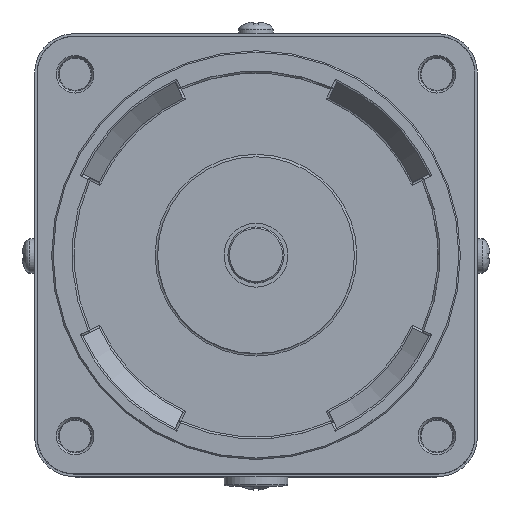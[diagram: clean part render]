
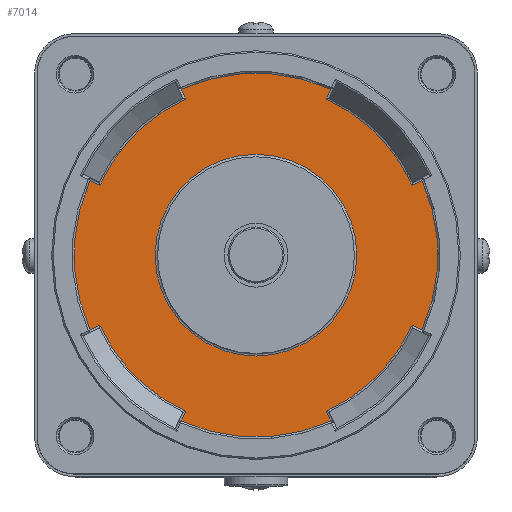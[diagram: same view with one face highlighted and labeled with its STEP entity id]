
A CAD part, top view. The second image highlights one B-rep face of the part: STEP entity #7014.
In plain terms, the highlighted planar face has unit normal (0, 0, 1).
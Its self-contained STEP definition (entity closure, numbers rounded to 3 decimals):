
#82 = CARTESIAN_POINT ( 'NONE',  ( -31.725, 14.242, -2. ) ) ;
#289 = CIRCLE ( 'NONE', #2017, 36.987 ) ;
#325 = AXIS2_PLACEMENT_3D ( 'NONE', #12234, #5129, #12098 ) ;
#367 = ORIENTED_EDGE ( 'NONE', *, *, #12181, .T. ) ;
#459 = EDGE_CURVE ( 'NONE', #4580, #11369, #8915, .T. ) ;
#765 = CIRCLE ( 'NONE', #325, 36.987 ) ;
#836 = DIRECTION ( 'NONE',  ( -0.423, 0.906, 0. ) ) ;
#866 = CARTESIAN_POINT ( 'NONE',  ( -15.177, -33.73, -2. ) ) ;
#884 = EDGE_LOOP ( 'NONE', ( #2710, #3350, #7605, #10015, #5276, #1548, #11326, #7663, #7212, #5815, #1776, #2326, #7047, #8259, #367, #5202 ) ) ;
#927 = VERTEX_POINT ( 'NONE', #13272 ) ;
#1102 = LINE ( 'NONE', #9570, #10724 ) ;
#1548 = ORIENTED_EDGE ( 'NONE', *, *, #7683, .T. ) ;
#1733 = ORIENTED_EDGE ( 'NONE', *, *, #1812, .T. ) ;
#1776 = ORIENTED_EDGE ( 'NONE', *, *, #12683, .T. ) ;
#1812 = EDGE_CURVE ( 'NONE', #10525, #10525, #5108, .T. ) ;
#2017 = AXIS2_PLACEMENT_3D ( 'NONE', #3175, #11440, #4129 ) ;
#2021 = CARTESIAN_POINT ( 'NONE',  ( 0., 0., -2. ) ) ;
#2065 = DIRECTION ( 'NONE',  ( 0., 0., 1. ) ) ;
#2326 = ORIENTED_EDGE ( 'NONE', *, *, #11047, .T. ) ;
#2350 = DIRECTION ( 'NONE',  ( 0.906, 0.423, 0. ) ) ;
#2394 = DIRECTION ( 'NONE',  ( -0.906, -0.423, 0. ) ) ;
#2538 = VERTEX_POINT ( 'NONE', #11842 ) ;
#2573 = VERTEX_POINT ( 'NONE', #9799 ) ;
#2656 = DIRECTION ( 'NONE',  ( 1., 0., 0. ) ) ;
#2680 = DIRECTION ( 'NONE',  ( 0., 0., 1. ) ) ;
#2710 = ORIENTED_EDGE ( 'NONE', *, *, #3640, .T. ) ;
#2854 = DIRECTION ( 'NONE',  ( 0., 0., 1. ) ) ;
#2869 = LINE ( 'NONE', #5934, #9582 ) ;
#3093 = CARTESIAN_POINT ( 'NONE',  ( 14.242, 31.725, -2. ) ) ;
#3175 = CARTESIAN_POINT ( 'NONE',  ( 0., 0., -2. ) ) ;
#3350 = ORIENTED_EDGE ( 'NONE', *, *, #4724, .T. ) ;
#3492 = EDGE_CURVE ( 'NONE', #10732, #4003, #10563, .T. ) ;
#3578 = CIRCLE ( 'NONE', #13303, 34.775 ) ;
#3640 = EDGE_CURVE ( 'NONE', #11369, #2538, #12183, .T. ) ;
#3680 = CIRCLE ( 'NONE', #4327, 36.987 ) ;
#3681 = CARTESIAN_POINT ( 'NONE',  ( 0., 0., -2. ) ) ;
#3782 = VERTEX_POINT ( 'NONE', #10350 ) ;
#3799 = DIRECTION ( 'NONE',  ( 0.906, -0.423, 0. ) ) ;
#3879 = FACE_OUTER_BOUND ( 'NONE', #884, .T. ) ;
#4003 = VERTEX_POINT ( 'NONE', #10683 ) ;
#4082 = DIRECTION ( 'NONE',  ( 1., 0., 0. ) ) ;
#4129 = DIRECTION ( 'NONE',  ( 1., 0., 0. ) ) ;
#4327 = AXIS2_PLACEMENT_3D ( 'NONE', #6392, #5512, #10520 ) ;
#4580 = VERTEX_POINT ( 'NONE', #13302 ) ;
#4655 = CARTESIAN_POINT ( 'NONE',  ( -14.242, -31.725, -2. ) ) ;
#4676 = VERTEX_POINT ( 'NONE', #11663 ) ;
#4724 = EDGE_CURVE ( 'NONE', #2538, #4676, #3680, .T. ) ;
#4971 = PLANE ( 'NONE',  #9372 ) ;
#5042 = AXIS2_PLACEMENT_3D ( 'NONE', #3681, #11938, #2656 ) ;
#5108 = CIRCLE ( 'NONE', #8119, 20.5 ) ;
#5129 = DIRECTION ( 'NONE',  ( 0., 0., 1. ) ) ;
#5202 = ORIENTED_EDGE ( 'NONE', *, *, #459, .T. ) ;
#5247 = CARTESIAN_POINT ( 'NONE',  ( 31.725, 14.242, -2. ) ) ;
#5276 = ORIENTED_EDGE ( 'NONE', *, *, #11590, .T. ) ;
#5512 = DIRECTION ( 'NONE',  ( 0., 0., 1. ) ) ;
#5541 = CARTESIAN_POINT ( 'NONE',  ( 0., 0., -2. ) ) ;
#5588 = EDGE_LOOP ( 'NONE', ( #1733 ) ) ;
#5677 = CARTESIAN_POINT ( 'NONE',  ( 0., 0., -2. ) ) ;
#5815 = ORIENTED_EDGE ( 'NONE', *, *, #7541, .T. ) ;
#5859 = LINE ( 'NONE', #13031, #10437 ) ;
#5934 = CARTESIAN_POINT ( 'NONE',  ( 14.338, -31.932, -2. ) ) ;
#6056 = CARTESIAN_POINT ( 'NONE',  ( -14.242, 31.725, -2. ) ) ;
#6180 = DIRECTION ( 'NONE',  ( 1., 0., 0. ) ) ;
#6392 = CARTESIAN_POINT ( 'NONE',  ( 0., 0., -2. ) ) ;
#6426 = LINE ( 'NONE', #9144, #7830 ) ;
#6532 = CARTESIAN_POINT ( 'NONE',  ( 0.453, -0.211, -2. ) ) ;
#6575 = VECTOR ( 'NONE', #3799, 1000. ) ;
#6603 = DIRECTION ( 'NONE',  ( -0.423, -0.906, 0. ) ) ;
#6689 = DIRECTION ( 'NONE',  ( 0.423, -0.906, 0. ) ) ;
#6764 = EDGE_CURVE ( 'NONE', #8246, #9740, #11694, .T. ) ;
#6929 = DIRECTION ( 'NONE',  ( 1., 0., 0. ) ) ;
#7014 = ADVANCED_FACE ( 'NONE', ( #3879, #7121 ), #4971, .T. ) ;
#7047 = ORIENTED_EDGE ( 'NONE', *, *, #9257, .T. ) ;
#7121 = FACE_BOUND ( 'NONE', #5588, .T. ) ;
#7212 = ORIENTED_EDGE ( 'NONE', *, *, #3492, .T. ) ;
#7229 = CIRCLE ( 'NONE', #10031, 36.987 ) ;
#7417 = VERTEX_POINT ( 'NONE', #866 ) ;
#7541 = EDGE_CURVE ( 'NONE', #4003, #13281, #289, .T. ) ;
#7591 = EDGE_CURVE ( 'NONE', #3782, #10519, #7829, .T. ) ;
#7605 = ORIENTED_EDGE ( 'NONE', *, *, #10330, .T. ) ;
#7611 = CARTESIAN_POINT ( 'NONE',  ( 31.725, -14.242, -2. ) ) ;
#7663 = ORIENTED_EDGE ( 'NONE', *, *, #8917, .T. ) ;
#7683 = EDGE_CURVE ( 'NONE', #927, #3782, #7229, .T. ) ;
#7829 = LINE ( 'NONE', #9659, #7869 ) ;
#7830 = VECTOR ( 'NONE', #2350, 1000. ) ;
#7869 = VECTOR ( 'NONE', #6689, 1000. ) ;
#7909 = VERTEX_POINT ( 'NONE', #4655 ) ;
#7943 = CIRCLE ( 'NONE', #12701, 34.775 ) ;
#8068 = CARTESIAN_POINT ( 'NONE',  ( 0., 0., -2. ) ) ;
#8119 = AXIS2_PLACEMENT_3D ( 'NONE', #11135, #12212, #6929 ) ;
#8190 = DIRECTION ( 'NONE',  ( 0., 0., 1. ) ) ;
#8241 = CARTESIAN_POINT ( 'NONE',  ( -31.725, -14.242, -2. ) ) ;
#8246 = VERTEX_POINT ( 'NONE', #5247 ) ;
#8259 = ORIENTED_EDGE ( 'NONE', *, *, #10166, .T. ) ;
#8837 = DIRECTION ( 'NONE',  ( 1., 0., 0. ) ) ;
#8915 = CIRCLE ( 'NONE', #5042, 34.775 ) ;
#8917 = EDGE_CURVE ( 'NONE', #10519, #10732, #7943, .T. ) ;
#9035 = CARTESIAN_POINT ( 'NONE',  ( -33.73, -15.177, -2. ) ) ;
#9144 = CARTESIAN_POINT ( 'NONE',  ( -31.932, -14.338, -2. ) ) ;
#9183 = CARTESIAN_POINT ( 'NONE',  ( 0., 0., -2. ) ) ;
#9257 = EDGE_CURVE ( 'NONE', #7909, #7417, #11944, .T. ) ;
#9366 = VECTOR ( 'NONE', #12725, 1000. ) ;
#9372 = AXIS2_PLACEMENT_3D ( 'NONE', #8068, #2854, #4082 ) ;
#9570 = CARTESIAN_POINT ( 'NONE',  ( 31.932, 14.338, -2. ) ) ;
#9582 = VECTOR ( 'NONE', #836, 1000. ) ;
#9659 = CARTESIAN_POINT ( 'NONE',  ( -14.338, 31.932, -2. ) ) ;
#9723 = DIRECTION ( 'NONE',  ( 1., 0., 0. ) ) ;
#9740 = VERTEX_POINT ( 'NONE', #3093 ) ;
#9799 = CARTESIAN_POINT ( 'NONE',  ( 15.177, -33.73, -2. ) ) ;
#9804 = VERTEX_POINT ( 'NONE', #8241 ) ;
#10015 = ORIENTED_EDGE ( 'NONE', *, *, #6764, .T. ) ;
#10031 = AXIS2_PLACEMENT_3D ( 'NONE', #5677, #10689, #9723 ) ;
#10166 = EDGE_CURVE ( 'NONE', #7417, #2573, #765, .T. ) ;
#10181 = AXIS2_PLACEMENT_3D ( 'NONE', #9183, #2065, #10271 ) ;
#10271 = DIRECTION ( 'NONE',  ( 1., 0., 0. ) ) ;
#10330 = EDGE_CURVE ( 'NONE', #4676, #8246, #1102, .T. ) ;
#10350 = CARTESIAN_POINT ( 'NONE',  ( -15.177, 33.73, -2. ) ) ;
#10437 = VECTOR ( 'NONE', #12963, 1000. ) ;
#10519 = VERTEX_POINT ( 'NONE', #6056 ) ;
#10520 = DIRECTION ( 'NONE',  ( 1., 0., 0. ) ) ;
#10525 = VERTEX_POINT ( 'NONE', #13307 ) ;
#10554 = VECTOR ( 'NONE', #6603, 1000. ) ;
#10563 = LINE ( 'NONE', #12866, #9366 ) ;
#10683 = CARTESIAN_POINT ( 'NONE',  ( -33.73, 15.177, -2. ) ) ;
#10689 = DIRECTION ( 'NONE',  ( 0., 0., 1. ) ) ;
#10724 = VECTOR ( 'NONE', #2394, 1000. ) ;
#10732 = VERTEX_POINT ( 'NONE', #82 ) ;
#11047 = EDGE_CURVE ( 'NONE', #9804, #7909, #3578, .T. ) ;
#11135 = CARTESIAN_POINT ( 'NONE',  ( 0., 0., -2. ) ) ;
#11326 = ORIENTED_EDGE ( 'NONE', *, *, #7591, .T. ) ;
#11369 = VERTEX_POINT ( 'NONE', #7611 ) ;
#11440 = DIRECTION ( 'NONE',  ( 0., 0., 1. ) ) ;
#11590 = EDGE_CURVE ( 'NONE', #9740, #927, #5859, .T. ) ;
#11663 = CARTESIAN_POINT ( 'NONE',  ( 33.73, 15.177, -2. ) ) ;
#11694 = CIRCLE ( 'NONE', #10181, 34.775 ) ;
#11842 = CARTESIAN_POINT ( 'NONE',  ( 33.73, -15.177, -2. ) ) ;
#11910 = CARTESIAN_POINT ( 'NONE',  ( 0.211, 0.453, -2. ) ) ;
#11938 = DIRECTION ( 'NONE',  ( 0., 0., 1. ) ) ;
#11944 = LINE ( 'NONE', #6532, #10554 ) ;
#12098 = DIRECTION ( 'NONE',  ( 1., 0., 0. ) ) ;
#12181 = EDGE_CURVE ( 'NONE', #2573, #4580, #2869, .T. ) ;
#12183 = LINE ( 'NONE', #11910, #6575 ) ;
#12212 = DIRECTION ( 'NONE',  ( 0., 0., -1. ) ) ;
#12234 = CARTESIAN_POINT ( 'NONE',  ( 0., 0., -2. ) ) ;
#12683 = EDGE_CURVE ( 'NONE', #13281, #9804, #6426, .T. ) ;
#12701 = AXIS2_PLACEMENT_3D ( 'NONE', #5541, #2680, #8837 ) ;
#12725 = DIRECTION ( 'NONE',  ( -0.906, 0.423, 0. ) ) ;
#12866 = CARTESIAN_POINT ( 'NONE',  ( -0.211, -0.453, -2. ) ) ;
#12963 = DIRECTION ( 'NONE',  ( 0.423, 0.906, 0. ) ) ;
#13031 = CARTESIAN_POINT ( 'NONE',  ( -0.453, 0.211, -2. ) ) ;
#13272 = CARTESIAN_POINT ( 'NONE',  ( 15.177, 33.73, -2. ) ) ;
#13281 = VERTEX_POINT ( 'NONE', #9035 ) ;
#13302 = CARTESIAN_POINT ( 'NONE',  ( 14.242, -31.725, -2. ) ) ;
#13303 = AXIS2_PLACEMENT_3D ( 'NONE', #2021, #8190, #6180 ) ;
#13307 = CARTESIAN_POINT ( 'NONE',  ( 20.5, 0., -2. ) ) ;
